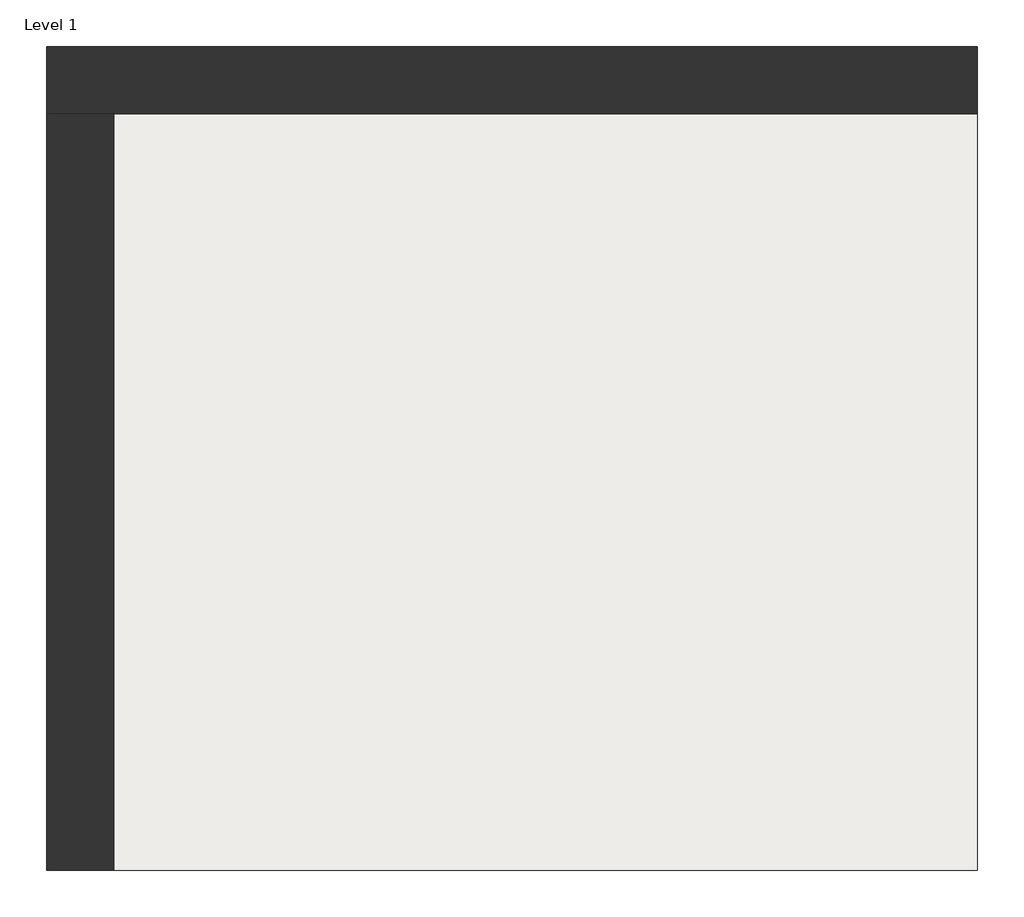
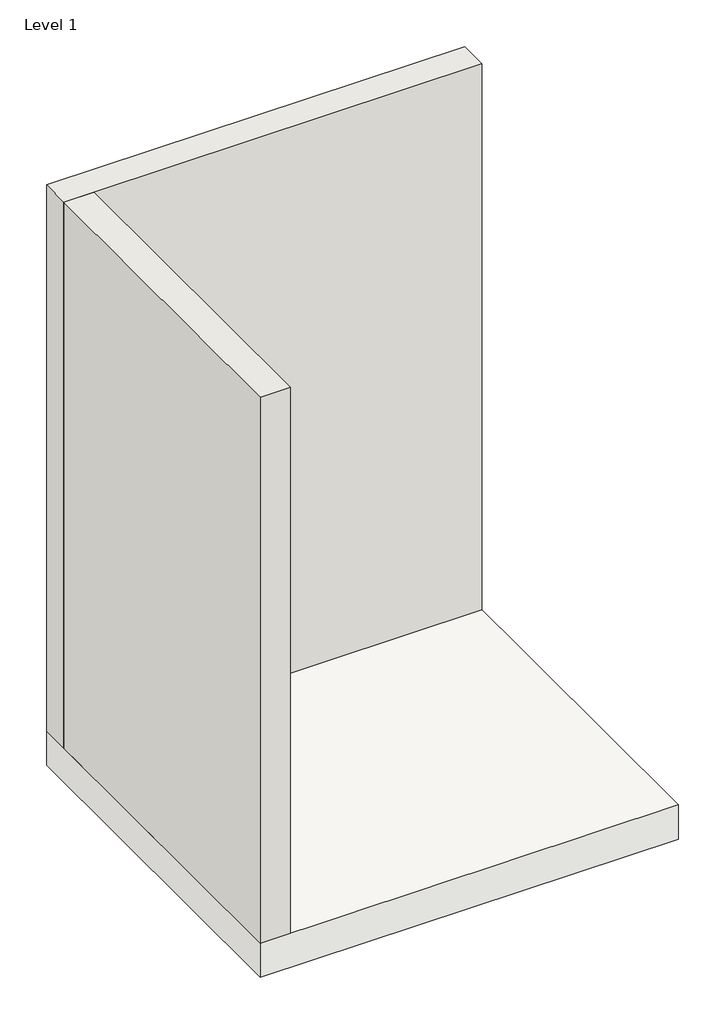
# One storey, incomplete: 2 walls, 1 slab.
"""IFC4 building model written with IfcOpenShell, lengths in millimetres."""

from ifc_helpers import new_model, si_unit, frame, origin, origin_with_axes, place, context, project, spatial, polyline, outline, extrude, faceted_brep, element, save

model = new_model("IFC4")

# Units and contexts
model_context = context("Model", 3, world=origin())
ifc_project = project(units=[si_unit("LENGTHUNIT", "METRE", prefix="MILLI")], contexts=[model_context])

# Site, building, storey
site = spatial("IfcSite", under=ifc_project)
building = spatial("IfcBuilding", under=site)
storey = spatial("IfcBuildingStorey", under=building, Name="Level 1", Elevation=0.0)

# Slab
placement = place(None, origin())
element("IfcSlab", 1, ObjectType="6''", at=placement, inside=storey, context=model_context, shape_type="SweptSolid", body=[
    extrude(outline(polyline([(-304.3353159, 1813.4375133), (-304.3353159, 251.3375133), (-2069.6353159, 251.3375133), (-2069.6353159, 1813.4375133), (-304.3353159, 1813.4375133)])), frame((0.0, 0.0, -152.4), z_axis=(0.0, 0.0, 1.0), x_axis=(1.0, 0.0, 0.0)), (0.0, 0.0, 1.0), 152.4),
])

# Walls
element("IfcWall", 2, ObjectType="Generic - 5\"", at=placement, inside=storey, context=model_context, shape_type="Brep", body=[
    faceted_brep([(-2069.6353159, 1686.4375133, 0.0), (-1942.6353159, 1686.4375133, 0.0), (-304.3353159, 1686.4375133, 0.0), (-304.3353159, 1686.4375133, 2438.4), (-1942.6353159, 1686.4375133, 2438.4), (-2069.6353159, 1686.4375133, 2438.4), (-2069.6353159, 1813.4375133, 0.0), (-2069.6353159, 1813.4375133, 2438.4), (-304.3353159, 1813.4375133, 2438.4), (-304.3353159, 1813.4375133, 0.0)], [[[0, 1, 2, 3, 4, 5]], [[6, 7, 8, 9]], [[0, 5, 7, 6]], [[2, 1, 0, 6, 9]], [[3, 2, 9, 8]], [[5, 4, 3, 8, 7]]]),
])
element("IfcWall", 3, ObjectType="Generic - 5\"", at=placement, inside=storey, context=model_context, shape_type="SweptSolid", body=[
    extrude(outline(polyline([(-2069.6353159, 251.3375133), (-2069.6353159, 1686.4375133), (-1942.6353159, 1686.4375133), (-1942.6353159, 251.3375133), (-2069.6353159, 251.3375133)])), origin_with_axes(), (0.0, 0.0, 1.0), 2438.4),
])

save(model, "model.ifc")
